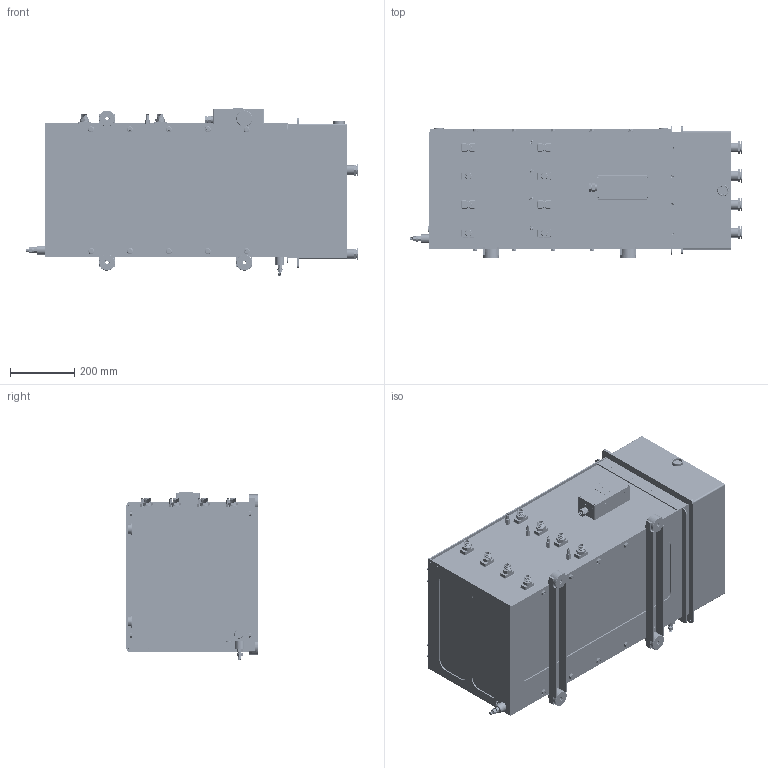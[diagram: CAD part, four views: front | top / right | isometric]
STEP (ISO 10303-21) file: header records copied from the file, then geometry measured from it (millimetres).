
FILE_DESCRIPTION (( 'STEP AP203' ), '1' );
FILE_NAME ('ﾐﾑﾌﾊ-4ﾂ IP65.STEP', '2024-04-08T13:56:59', ( '' ), ( '' ), 'SwSTEP 2.0', 'SolidWorks 2020', '' );
FILE_SCHEMA (( 'CONFIG_CONTROL_DESIGN' ));
Products named in the file (1): ﾐﾑﾌﾊ-4ﾂ IP65
Bounding box: 1036.43 x 414 x 523 mm (x, y, z)
Volume: 123049149.7 mm3; surface area: 7254493.7 mm2
Topology: 296 solids, 444 shells, 17307 faces, 42485 edges, 26865 vertices
Faces by surface type: cylinder 7794, plane 6611, cone 1104, torus 1064, bspline 694, sphere 40
Entity records: 860831 total; most frequent: CARTESIAN_POINT 468148, ORIENTED_EDGE 85402, DIRECTION 79226, EDGE_CURVE 42701, AXIS2_PLACEMENT_3D 29373, VERTEX_POINT 27233, VECTOR 20480, LINE 20480
